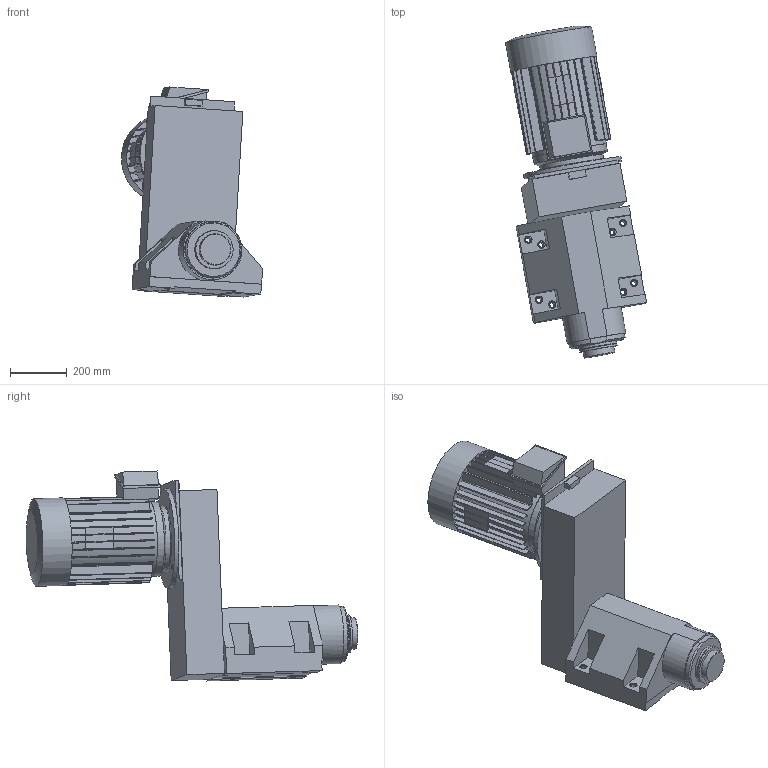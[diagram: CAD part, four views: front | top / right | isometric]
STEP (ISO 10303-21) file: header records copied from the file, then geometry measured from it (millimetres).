
FILE_DESCRIPTION((''),'2;1');
FILE_NAME('C:\VaultWork\Zeichnungen\Maßblätter\BF5b\BF01393-1-0 Maßblatt BF5b SK50.stp','2009-05-05T11:38:33',('Test'),(''),'Autodesk Inventor 2008','Autodesk Inventor 2008','');
FILE_SCHEMA(('AUTOMOTIVE_DESIGN { 1 0 10303 214 1 1 1 1 }'));
Length unit declared in the file: millimetre
Products named in the file (1): BF01393-1-0 Maßblatt BF5b SK50
Bounding box: 497.7 x 1169.87 x 740.37 mm (x, y, z)
Volume: 88619938.8 mm3; surface area: 2545474.7 mm2
Topology: 4 solids, 4 shells, 345 faces, 943 edges, 607 vertices
Faces by surface type: plane 265, cylinder 50, bspline 24, cone 6
Full cylindrical faces by diameter (mm): 18.5 x4, 45 x1, 110 x1, 122 x1, 128 x1, 128.5 x1, 134 x1, 135 x1, 228 x1, 238 x1, 263 x1, 264 x1, 309.4 x1, 350 x1
Entity records: 11243 total; most frequent: CARTESIAN_POINT 2145, ORIENTED_EDGE 1798, DIRECTION 1748, EDGE_CURVE 899, VECTOR 692, LINE 692, VERTEX_POINT 602, AXIS2_PLACEMENT_3D 528
